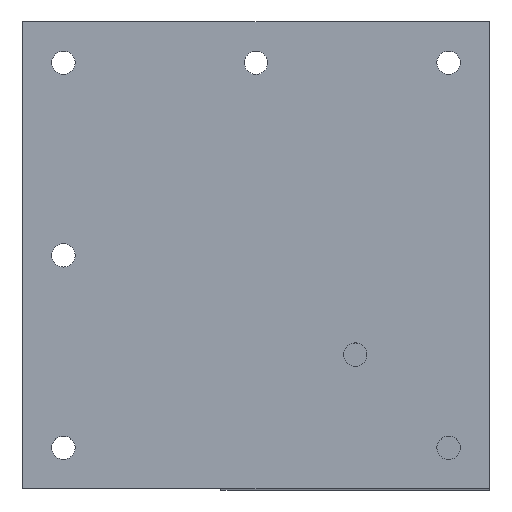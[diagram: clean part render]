
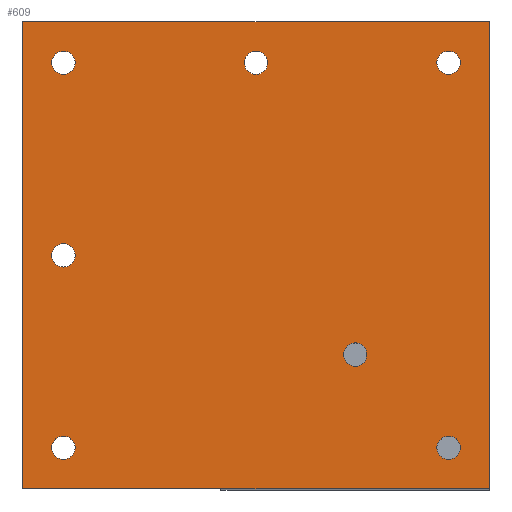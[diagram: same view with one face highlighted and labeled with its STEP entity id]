
A CAD part, top view. The second image highlights one B-rep face of the part: STEP entity #609.
In plain terms, the highlighted planar face has unit normal (0, 0, 1).
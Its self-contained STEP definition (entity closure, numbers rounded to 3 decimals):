
#241 = EDGE_CURVE( '', #485, #581, #668, .T. );
#243 = EDGE_CURVE( '', #339, #585, #670, .T. );
#251 = VERTEX_POINT( '', #678 );
#253 = VERTEX_POINT( '', #680 );
#261 = EDGE_CURVE( '', #281, #341, #688, .T. );
#269 = EDGE_CURVE( '', #581, #281, #696, .T. );
#281 = VERTEX_POINT( '', #708 );
#283 = VERTEX_POINT( '', #710 );
#285 = VERTEX_POINT( '', #712 );
#295 = VERTEX_POINT( '', #724 );
#337 = EDGE_CURVE( '', #341, #485, #776, .T. );
#339 = VERTEX_POINT( '', #778 );
#341 = VERTEX_POINT( '', #780 );
#347 = VERTEX_POINT( '', #787 );
#351 = EDGE_CURVE( '', #251, #347, #791, .T. );
#359 = EDGE_CURVE( '', #513, #283, #801, .T. );
#365 = EDGE_CURVE( '', #433, #449, #807, .T. );
#379 = EDGE_CURVE( '', #439, #253, #822, .T. );
#397 = EDGE_CURVE( '', #347, #251, #844, .T. );
#399 = EDGE_CURVE( '', #585, #339, #846, .T. );
#403 = EDGE_CURVE( '', #253, #439, #850, .T. );
#421 = EDGE_CURVE( '', #465, #295, #872, .T. );
#433 = VERTEX_POINT( '', #886 );
#437 = EDGE_CURVE( '', #285, #481, #890, .T. );
#439 = VERTEX_POINT( '', #892 );
#449 = VERTEX_POINT( '', #904 );
#465 = VERTEX_POINT( '', #921 );
#481 = VERTEX_POINT( '', #938 );
#485 = VERTEX_POINT( '', #942 );
#489 = EDGE_CURVE( '', #283, #513, #946, .T. );
#513 = VERTEX_POINT( '', #970 );
#515 = EDGE_CURVE( '', #481, #285, #972, .T. );
#571 = EDGE_CURVE( '', #295, #465, #1034, .T. );
#581 = VERTEX_POINT( '', #1044 );
#585 = VERTEX_POINT( '', #1050 );
#609 = ADVANCED_FACE( '', ( #1079, #1080, #1081, #1082, #1083, #1084, #1085, #1086 ), #1087, .T. );
#635 = EDGE_CURVE( '', #449, #433, #1116, .T. );
#668 = LINE( '', #1146, #1147 );
#670 = CIRCLE( '', #1150, 2. );
#678 = CARTESIAN_POINT( '', ( 31., -33., 0. ) );
#680 = CARTESIAN_POINT( '', ( -31., 0., 0. ) );
#688 = LINE( '', #1177, #1178 );
#696 = LINE( '', #1193, #1194 );
#708 = CARTESIAN_POINT( '', ( -40., 40., 0. ) );
#710 = CARTESIAN_POINT( '', ( 35., 33., 0. ) );
#712 = CARTESIAN_POINT( '', ( 19., -17., 0. ) );
#724 = CARTESIAN_POINT( '', ( -31., 33., 0. ) );
#776 = LINE( '', #1299, #1300 );
#778 = CARTESIAN_POINT( '', ( -31., -33., 0. ) );
#780 = CARTESIAN_POINT( '', ( -40., -40., 0. ) );
#787 = CARTESIAN_POINT( '', ( 35., -33., 0. ) );
#791 = CIRCLE( '', #1320, 2. );
#801 = CIRCLE( '', #1333, 2. );
#807 = CIRCLE( '', #1343, 2. );
#822 = CIRCLE( '', #1364, 2. );
#844 = CIRCLE( '', #1391, 2. );
#846 = CIRCLE( '', #1394, 2. );
#850 = CIRCLE( '', #1399, 2. );
#872 = CIRCLE( '', #1425, 2. );
#886 = CARTESIAN_POINT( '', ( -2., 33., 0. ) );
#890 = CIRCLE( '', #1446, 2. );
#892 = CARTESIAN_POINT( '', ( -35., 0., 0. ) );
#904 = CARTESIAN_POINT( '', ( 2., 33., 0. ) );
#921 = CARTESIAN_POINT( '', ( -35., 33., 0. ) );
#938 = CARTESIAN_POINT( '', ( 15., -17., 0. ) );
#942 = CARTESIAN_POINT( '', ( 40., -40., 0. ) );
#946 = CIRCLE( '', #1527, 2. );
#970 = CARTESIAN_POINT( '', ( 31., 33., 0. ) );
#972 = CIRCLE( '', #1566, 2. );
#1034 = CIRCLE( '', #1651, 2. );
#1044 = CARTESIAN_POINT( '', ( 40., 40., 0. ) );
#1050 = CARTESIAN_POINT( '', ( -35., -33., 0. ) );
#1079 = FACE_BOUND( '', #1708, .T. );
#1080 = FACE_OUTER_BOUND( '', #1709, .T. );
#1081 = FACE_BOUND( '', #1710, .T. );
#1082 = FACE_BOUND( '', #1711, .T. );
#1083 = FACE_BOUND( '', #1712, .T. );
#1084 = FACE_BOUND( '', #1713, .T. );
#1085 = FACE_BOUND( '', #1714, .T. );
#1086 = FACE_BOUND( '', #1715, .T. );
#1087 = PLANE( '', #1716 );
#1116 = CIRCLE( '', #1756, 2. );
#1146 = CARTESIAN_POINT( '', ( 40., -40., 0. ) );
#1147 = VECTOR( '', #1773, 1. );
#1150 = AXIS2_PLACEMENT_3D( '', #1774, #1775, #1776 );
#1177 = CARTESIAN_POINT( '', ( -40., 40., 0. ) );
#1178 = VECTOR( '', #1785, 1. );
#1193 = CARTESIAN_POINT( '', ( 40., 40., 0. ) );
#1194 = VECTOR( '', #1789, 1. );
#1299 = CARTESIAN_POINT( '', ( -40., -40., 0. ) );
#1300 = VECTOR( '', #1866, 1. );
#1320 = AXIS2_PLACEMENT_3D( '', #1877, #1878, #1879 );
#1333 = AXIS2_PLACEMENT_3D( '', #1897, #1898, #1899 );
#1343 = AXIS2_PLACEMENT_3D( '', #1904, #1905, #1906 );
#1364 = AXIS2_PLACEMENT_3D( '', #1920, #1921, #1922 );
#1391 = AXIS2_PLACEMENT_3D( '', #1962, #1963, #1964 );
#1394 = AXIS2_PLACEMENT_3D( '', #1965, #1966, #1967 );
#1399 = AXIS2_PLACEMENT_3D( '', #1968, #1969, #1970 );
#1425 = AXIS2_PLACEMENT_3D( '', #2007, #2008, #2009 );
#1446 = AXIS2_PLACEMENT_3D( '', #2032, #2033, #2034 );
#1527 = AXIS2_PLACEMENT_3D( '', #2084, #2085, #2086 );
#1566 = AXIS2_PLACEMENT_3D( '', #2093, #2094, #2095 );
#1651 = AXIS2_PLACEMENT_3D( '', #2167, #2168, #2169 );
#1708 = EDGE_LOOP( '', ( #2217, #2218 ) );
#1709 = EDGE_LOOP( '', ( #2219, #2220, #2221, #2222 ) );
#1710 = EDGE_LOOP( '', ( #2223, #2224 ) );
#1711 = EDGE_LOOP( '', ( #2225, #2226 ) );
#1712 = EDGE_LOOP( '', ( #2227, #2228 ) );
#1713 = EDGE_LOOP( '', ( #2229, #2230 ) );
#1714 = EDGE_LOOP( '', ( #2231, #2232 ) );
#1715 = EDGE_LOOP( '', ( #2233, #2234 ) );
#1716 = AXIS2_PLACEMENT_3D( '', #2235, #2236, #2237 );
#1756 = AXIS2_PLACEMENT_3D( '', #2267, #2268, #2269 );
#1773 = DIRECTION( '', ( 0., 1., 0. ) );
#1774 = CARTESIAN_POINT( '', ( -33., -33., 0. ) );
#1775 = DIRECTION( '', ( 0., 0., 1. ) );
#1776 = DIRECTION( '', ( 1., 0., 0. ) );
#1785 = DIRECTION( '', ( 0., -1., 0. ) );
#1789 = DIRECTION( '', ( -1., 0., 0. ) );
#1866 = DIRECTION( '', ( 1., 0., 0. ) );
#1877 = CARTESIAN_POINT( '', ( 33., -33., 0. ) );
#1878 = DIRECTION( '', ( 0., 0., 1. ) );
#1879 = DIRECTION( '', ( 1., 0., 0. ) );
#1897 = CARTESIAN_POINT( '', ( 33., 33., 0. ) );
#1898 = DIRECTION( '', ( 0., 0., 1. ) );
#1899 = DIRECTION( '', ( 1., 0., 0. ) );
#1904 = CARTESIAN_POINT( '', ( 0., 33., 0. ) );
#1905 = DIRECTION( '', ( 0., 0., 1. ) );
#1906 = DIRECTION( '', ( 1., 0., 0. ) );
#1920 = CARTESIAN_POINT( '', ( -33., 0., 0. ) );
#1921 = DIRECTION( '', ( 0., 0., 1. ) );
#1922 = DIRECTION( '', ( 1., 0., 0. ) );
#1962 = CARTESIAN_POINT( '', ( 33., -33., 0. ) );
#1963 = DIRECTION( '', ( 0., 0., 1. ) );
#1964 = DIRECTION( '', ( 1., 0., 0. ) );
#1965 = CARTESIAN_POINT( '', ( -33., -33., 0. ) );
#1966 = DIRECTION( '', ( 0., 0., 1. ) );
#1967 = DIRECTION( '', ( 1., 0., 0. ) );
#1968 = CARTESIAN_POINT( '', ( -33., 0., 0. ) );
#1969 = DIRECTION( '', ( 0., 0., 1. ) );
#1970 = DIRECTION( '', ( 1., 0., 0. ) );
#2007 = CARTESIAN_POINT( '', ( -33., 33., 0. ) );
#2008 = DIRECTION( '', ( 0., 0., 1. ) );
#2009 = DIRECTION( '', ( 1., 0., 0. ) );
#2032 = CARTESIAN_POINT( '', ( 17., -17., 0. ) );
#2033 = DIRECTION( '', ( 0., 0., -1. ) );
#2034 = DIRECTION( '', ( 1., 0., 0. ) );
#2084 = CARTESIAN_POINT( '', ( 33., 33., 0. ) );
#2085 = DIRECTION( '', ( 0., 0., 1. ) );
#2086 = DIRECTION( '', ( 1., 0., 0. ) );
#2093 = CARTESIAN_POINT( '', ( 17., -17., 0. ) );
#2094 = DIRECTION( '', ( 0., 0., -1. ) );
#2095 = DIRECTION( '', ( 1., 0., 0. ) );
#2167 = CARTESIAN_POINT( '', ( -33., 33., 0. ) );
#2168 = DIRECTION( '', ( 0., 0., 1. ) );
#2169 = DIRECTION( '', ( 1., 0., 0. ) );
#2217 = ORIENTED_EDGE( '', *, *, #437, .T. );
#2218 = ORIENTED_EDGE( '', *, *, #515, .T. );
#2219 = ORIENTED_EDGE( '', *, *, #261, .T. );
#2220 = ORIENTED_EDGE( '', *, *, #337, .T. );
#2221 = ORIENTED_EDGE( '', *, *, #241, .T. );
#2222 = ORIENTED_EDGE( '', *, *, #269, .T. );
#2223 = ORIENTED_EDGE( '', *, *, #397, .F. );
#2224 = ORIENTED_EDGE( '', *, *, #351, .F. );
#2225 = ORIENTED_EDGE( '', *, *, #489, .F. );
#2226 = ORIENTED_EDGE( '', *, *, #359, .F. );
#2227 = ORIENTED_EDGE( '', *, *, #635, .F. );
#2228 = ORIENTED_EDGE( '', *, *, #365, .F. );
#2229 = ORIENTED_EDGE( '', *, *, #403, .F. );
#2230 = ORIENTED_EDGE( '', *, *, #379, .F. );
#2231 = ORIENTED_EDGE( '', *, *, #243, .F. );
#2232 = ORIENTED_EDGE( '', *, *, #399, .F. );
#2233 = ORIENTED_EDGE( '', *, *, #571, .F. );
#2234 = ORIENTED_EDGE( '', *, *, #421, .F. );
#2235 = CARTESIAN_POINT( '', ( 0., 0., 0. ) );
#2236 = DIRECTION( '', ( 0., 0., 1. ) );
#2237 = DIRECTION( '', ( 1., 0., 0. ) );
#2267 = CARTESIAN_POINT( '', ( 0., 33., 0. ) );
#2268 = DIRECTION( '', ( 0., 0., 1. ) );
#2269 = DIRECTION( '', ( 1., 0., 0. ) );
